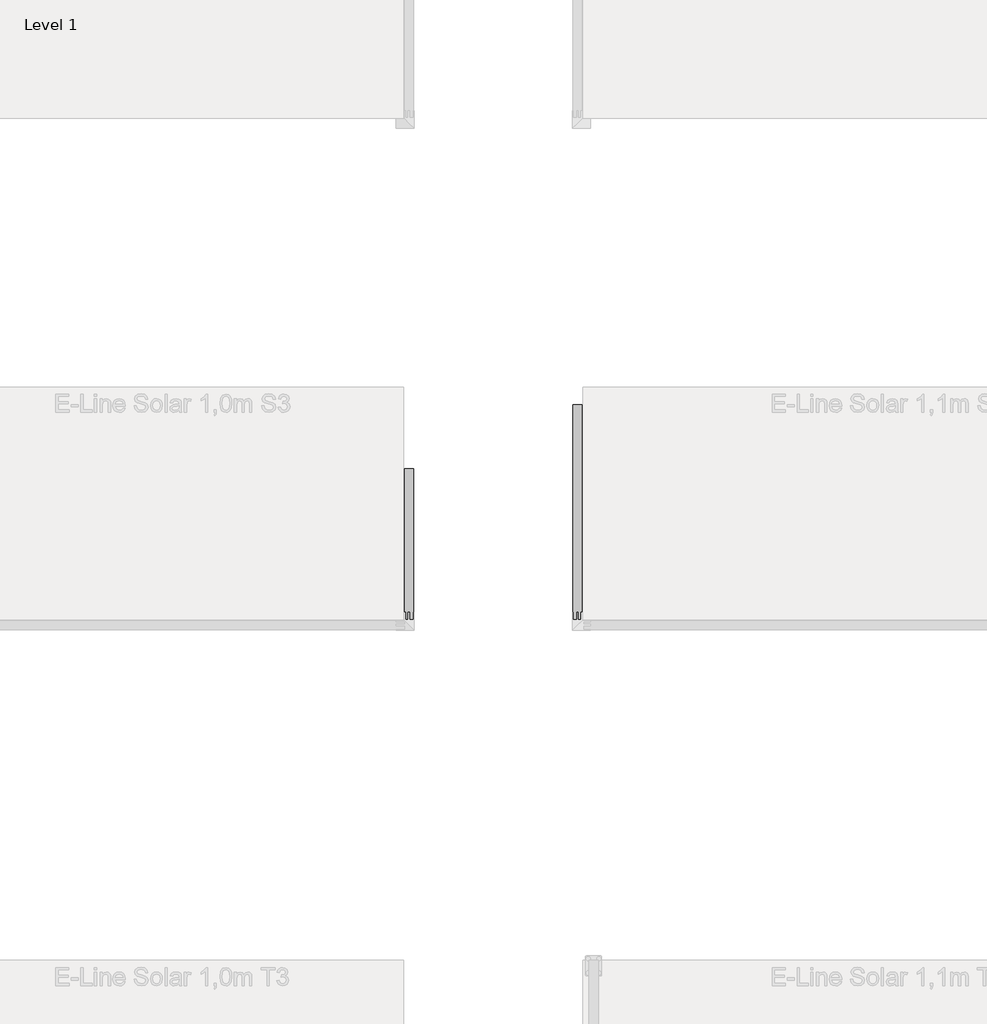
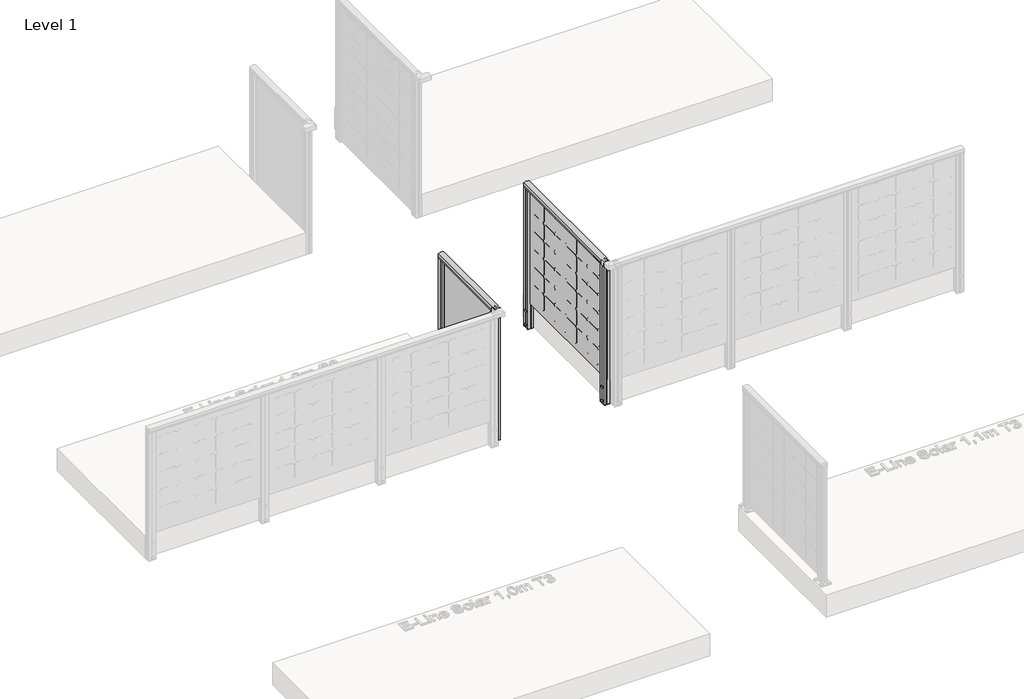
# One storey, part 37 of 66: 2 railings.
"""IFC4 building model written with IfcOpenShell, lengths in millimetres."""

from ifc_helpers import new_model, si_unit, point, frame, frame_2d, origin, place, context, project, spatial, polyline, circle_curve, trimmed, segment, composite_curve, outline, extrude, element, save

model = new_model("IFC4")

# Units and contexts
model_context = context("Model", 3, world=origin())
ifc_project = project(units=[si_unit("LENGTHUNIT", "METRE", prefix="MILLI")], contexts=[model_context])

# Site, building, storey
site = spatial("IfcSite", under=ifc_project)
building = spatial("IfcBuilding", under=site)
storey = spatial("IfcBuildingStorey", under=building, Name="Level 1", Elevation=0.0)

# Railings
placement = place(None, origin())
element("IfcRailing", 1, ObjectType="E-Line Solar 1,1m S3 6 columns of solar elements", at=placement, inside=storey, context=model_context, shape_type="SweptSolid", body=[
    extrude(outline(composite_curve([segment(trimmed(circle_curve(frame_2d((1042.6785502, 19265.8109342)), 57.3235687), [point((1094.1390059, 19291.0658945))], [point((1094.1342258, 19240.5462362))], False, "CARTESIAN"), True, "CONTINUOUS"), segment(polyline([(1094.1342258, 19240.5462362), (1067.0235023, 19240.5462362), (1066.4415706, 19241.128168), (1065.8194895, 19240.5060869), (1057.2498847, 19240.5060869), (1057.2498847, 19242.3110398), (1080.4998829, 19242.3110398), (1080.4998829, 19289.306086), (1057.2498847, 19289.306086), (1057.2498847, 19291.0658945), (1065.9694895, 19291.0658945), (1066.5842725, 19290.4511115), (1067.1990555, 19291.0658945), (1094.1390059, 19291.0658945)]), True, "CONTINUOUS")], self_intersect=False)), frame((0.0, 223.8815979, 0.0), z_axis=(0.0, 1.0, 0.0), x_axis=(0.0, 0.0, 1.0)), (0.0, 0.0, 1.0), 1195.0),
    extrude(outline(polyline([(19262.1463105, 1418.8815979), (19270.9063105, 1418.8815979), (19270.9063105, 223.8815979), (19262.1463105, 223.8815979), (19262.1463105, 1418.8815979)])), frame((0.0, 0.0, 28.0), z_axis=(0.0, 0.0, 1.0), x_axis=(1.0, 0.0, 0.0)), (0.0, 0.0, 1.0), 1052.0),
    extrude(outline(polyline([(0.0, 0.0), (-16.036927, 16.036927), (-16.036927, 139.963073), (0.0, 156.0), (123.9261459, 156.0), (139.963073, 139.963073), (139.963073, 16.036927), (123.9261459, 0.0), (0.0, 0.0)])), frame((19262.0263105, 1145.8815979, 1024.4156895), z_axis=(1.0, -5.811291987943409e-12, 0.0), x_axis=(0.0, 0.0, -1.0)), (0.0, 0.0, 1.0), 1.0),
    extrude(outline(polyline([(0.0, 0.0), (-16.036927, 16.036927), (-16.036927, 139.963073), (0.0, 156.0), (123.9261459, 156.0), (139.963073, 139.963073), (139.963073, 16.036927), (123.9261459, 0.0), (0.0, 0.0)])), frame((19262.0263105, 984.8815979, 1024.4156895), z_axis=(1.0, -5.811291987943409e-12, 0.0), x_axis=(0.0, 0.0, -1.0)), (0.0, 0.0, 1.0), 1.0),
    extrude(outline(polyline([(0.0, 0.0), (-16.036927, 16.036927), (-16.036927, 139.963073), (0.0, 156.0), (123.9261459, 156.0), (139.963073, 139.963073), (139.963073, 16.036927), (123.9261459, 0.0), (0.0, 0.0)])), frame((19262.0263105, 823.8815979, 1024.4156895), z_axis=(1.0, -5.811291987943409e-12, 0.0), x_axis=(0.0, 0.0, -1.0)), (0.0, 0.0, 1.0), 1.0),
    extrude(outline(polyline([(0.0, 0.0), (-16.036927, 16.036927), (-16.036927, 139.963073), (0.0, 156.0), (123.9261459, 156.0), (139.963073, 139.963073), (139.963073, 16.036927), (123.9261459, 0.0), (0.0, 0.0)])), frame((19262.0263105, 340.8815979, 1024.4156895), z_axis=(1.0, -5.811291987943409e-12, 0.0), x_axis=(0.0, 0.0, -1.0)), (0.0, 0.0, 1.0), 1.0),
    extrude(outline(polyline([(0.0, 0.0), (-16.036927, 16.036927), (-16.036927, 139.963073), (0.0, 156.0), (123.9261459, 156.0), (139.963073, 139.963073), (139.963073, 16.036927), (123.9261459, 0.0), (0.0, 0.0)])), frame((19262.0263105, 501.8815979, 1024.4156895), z_axis=(1.0, -5.811291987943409e-12, 0.0), x_axis=(0.0, 0.0, -1.0)), (0.0, 0.0, 1.0), 1.0),
    extrude(outline(polyline([(0.0, 0.0), (-16.036927, 16.036927), (-16.036927, 139.963073), (0.0, 156.0), (123.9261459, 156.0), (139.963073, 139.963073), (139.963073, 16.036927), (123.9261459, 0.0), (0.0, 0.0)])), frame((19262.0263105, 662.8815979, 1024.4156895), z_axis=(1.0, -5.811291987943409e-12, 0.0), x_axis=(0.0, 0.0, -1.0)), (0.0, 0.0, 1.0), 1.0),
    extrude(outline(polyline([(0.0, 0.0), (-16.036927, 16.036927), (-16.036927, 139.963073), (0.0, 156.0), (123.9261459, 156.0), (139.963073, 139.963073), (139.963073, 16.036927), (123.9261459, 0.0), (0.0, 0.0)])), frame((19262.0263105, 1145.8815979, 863.4156895), z_axis=(1.0, -5.811291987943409e-12, 0.0), x_axis=(0.0, 0.0, -1.0)), (0.0, 0.0, 1.0), 1.0),
    extrude(outline(polyline([(0.0, 0.0), (-16.036927, 16.036927), (-16.036927, 139.963073), (0.0, 156.0), (123.9261459, 156.0), (139.963073, 139.963073), (139.963073, 16.036927), (123.9261459, 0.0), (0.0, 0.0)])), frame((19262.0263105, 1145.8815979, 702.4156895), z_axis=(1.0, -5.811291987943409e-12, 0.0), x_axis=(0.0, 0.0, -1.0)), (0.0, 0.0, 1.0), 1.0),
    extrude(outline(polyline([(0.0, 0.0), (-16.036927, 16.036927), (-16.036927, 139.963073), (0.0, 156.0), (123.9261459, 156.0), (139.963073, 139.963073), (139.963073, 16.036927), (123.9261459, 0.0), (0.0, 0.0)])), frame((19262.0263105, 1145.8815979, 541.4156895), z_axis=(1.0, -5.811291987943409e-12, 0.0), x_axis=(0.0, 0.0, -1.0)), (0.0, 0.0, 1.0), 1.0),
    extrude(outline(polyline([(0.0, 0.0), (-16.036927, 16.036927), (-16.036927, 139.963073), (0.0, 156.0), (123.9261459, 156.0), (139.963073, 139.963073), (139.963073, 16.036927), (123.9261459, 0.0), (0.0, 0.0)])), frame((19262.0263105, 1145.8815979, 380.4156895), z_axis=(1.0, -5.811291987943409e-12, 0.0), x_axis=(0.0, 0.0, -1.0)), (0.0, 0.0, 1.0), 1.0),
    extrude(outline(polyline([(0.0, 0.0), (-16.036927, 16.036927), (-16.036927, 139.963073), (0.0, 156.0), (123.9261459, 156.0), (139.963073, 139.963073), (139.963073, 16.036927), (123.9261459, 0.0), (0.0, 0.0)])), frame((19262.0263105, 1145.8815979, 219.4156895), z_axis=(1.0, -5.811291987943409e-12, 0.0), x_axis=(0.0, 0.0, -1.0)), (0.0, 0.0, 1.0), 1.0),
    extrude(outline(polyline([(0.0, 0.0), (-16.036927, 16.036927), (-16.036927, 139.963073), (0.0, 156.0), (123.9261459, 156.0), (139.963073, 139.963073), (139.963073, 16.036927), (123.9261459, 0.0), (0.0, 0.0)])), frame((19262.0263105, 984.8815979, 863.4156895), z_axis=(1.0, -5.811291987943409e-12, 0.0), x_axis=(0.0, 0.0, -1.0)), (0.0, 0.0, 1.0), 1.0),
    extrude(outline(polyline([(0.0, 0.0), (-16.036927, 16.036927), (-16.036927, 139.963073), (0.0, 156.0), (123.9261459, 156.0), (139.963073, 139.963073), (139.963073, 16.036927), (123.9261459, 0.0), (0.0, 0.0)])), frame((19262.0263105, 984.8815979, 702.4156895), z_axis=(1.0, -5.811291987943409e-12, 0.0), x_axis=(0.0, 0.0, -1.0)), (0.0, 0.0, 1.0), 1.0),
    extrude(outline(polyline([(0.0, 0.0), (-16.036927, 16.036927), (-16.036927, 139.963073), (0.0, 156.0), (123.9261459, 156.0), (139.963073, 139.963073), (139.963073, 16.036927), (123.9261459, 0.0), (0.0, 0.0)])), frame((19262.0263105, 984.8815979, 541.4156895), z_axis=(1.0, -5.811291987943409e-12, 0.0), x_axis=(0.0, 0.0, -1.0)), (0.0, 0.0, 1.0), 1.0),
    extrude(outline(polyline([(0.0, 0.0), (-16.036927, 16.036927), (-16.036927, 139.963073), (0.0, 156.0), (123.9261459, 156.0), (139.963073, 139.963073), (139.963073, 16.036927), (123.9261459, 0.0), (0.0, 0.0)])), frame((19262.0263105, 984.8815979, 380.4156895), z_axis=(1.0, -5.811291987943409e-12, 0.0), x_axis=(0.0, 0.0, -1.0)), (0.0, 0.0, 1.0), 1.0),
    extrude(outline(polyline([(0.0, 0.0), (-16.036927, 16.036927), (-16.036927, 139.963073), (0.0, 156.0), (123.9261459, 156.0), (139.963073, 139.963073), (139.963073, 16.036927), (123.9261459, 0.0), (0.0, 0.0)])), frame((19262.0263105, 984.8815979, 219.4156895), z_axis=(1.0, -5.811291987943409e-12, 0.0), x_axis=(0.0, 0.0, -1.0)), (0.0, 0.0, 1.0), 1.0),
    extrude(outline(polyline([(0.0, 0.0), (-16.036927, 16.036927), (-16.036927, 139.963073), (0.0, 156.0), (123.9261459, 156.0), (139.963073, 139.963073), (139.963073, 16.036927), (123.9261459, 0.0), (0.0, 0.0)])), frame((19262.0263105, 823.8815979, 863.4156895), z_axis=(1.0, -5.811291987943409e-12, 0.0), x_axis=(0.0, 0.0, -1.0)), (0.0, 0.0, 1.0), 1.0),
    extrude(outline(polyline([(0.0, 0.0), (-16.036927, 16.036927), (-16.036927, 139.963073), (0.0, 156.0), (123.9261459, 156.0), (139.963073, 139.963073), (139.963073, 16.036927), (123.9261459, 0.0), (0.0, 0.0)])), frame((19262.0263105, 823.8815979, 702.4156895), z_axis=(1.0, -5.811291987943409e-12, 0.0), x_axis=(0.0, 0.0, -1.0)), (0.0, 0.0, 1.0), 1.0),
    extrude(outline(polyline([(0.0, 0.0), (-16.036927, 16.036927), (-16.036927, 139.963073), (0.0, 156.0), (123.9261459, 156.0), (139.963073, 139.963073), (139.963073, 16.036927), (123.9261459, 0.0), (0.0, 0.0)])), frame((19262.0263105, 823.8815979, 541.4156895), z_axis=(1.0, -5.811291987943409e-12, 0.0), x_axis=(0.0, 0.0, -1.0)), (0.0, 0.0, 1.0), 1.0),
    extrude(outline(polyline([(0.0, 0.0), (-16.036927, 16.036927), (-16.036927, 139.963073), (0.0, 156.0), (123.9261459, 156.0), (139.963073, 139.963073), (139.963073, 16.036927), (123.9261459, 0.0), (0.0, 0.0)])), frame((19262.0263105, 823.8815979, 380.4156895), z_axis=(1.0, -5.811291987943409e-12, 0.0), x_axis=(0.0, 0.0, -1.0)), (0.0, 0.0, 1.0), 1.0),
    extrude(outline(polyline([(0.0, 0.0), (-16.036927, 16.036927), (-16.036927, 139.963073), (0.0, 156.0), (123.9261459, 156.0), (139.963073, 139.963073), (139.963073, 16.036927), (123.9261459, 0.0), (0.0, 0.0)])), frame((19262.0263105, 823.8815979, 219.4156895), z_axis=(1.0, -5.811291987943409e-12, 0.0), x_axis=(0.0, 0.0, -1.0)), (0.0, 0.0, 1.0), 1.0),
    extrude(outline(polyline([(0.0, 0.0), (-16.036927, 16.036927), (-16.036927, 139.963073), (0.0, 156.0), (123.9261459, 156.0), (139.963073, 139.963073), (139.963073, 16.036927), (123.9261459, 0.0), (0.0, 0.0)])), frame((19262.0263105, 340.8815979, 863.4156895), z_axis=(1.0, -5.811291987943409e-12, 0.0), x_axis=(0.0, 0.0, -1.0)), (0.0, 0.0, 1.0), 1.0),
    extrude(outline(polyline([(0.0, 0.0), (-16.036927, 16.036927), (-16.036927, 139.963073), (0.0, 156.0), (123.9261459, 156.0), (139.963073, 139.963073), (139.963073, 16.036927), (123.9261459, 0.0), (0.0, 0.0)])), frame((19262.0263105, 340.8815979, 702.4156895), z_axis=(1.0, -5.811291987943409e-12, 0.0), x_axis=(0.0, 0.0, -1.0)), (0.0, 0.0, 1.0), 1.0),
    extrude(outline(polyline([(0.0, 0.0), (-16.036927, 16.036927), (-16.036927, 139.963073), (0.0, 156.0), (123.9261459, 156.0), (139.963073, 139.963073), (139.963073, 16.036927), (123.9261459, 0.0), (0.0, 0.0)])), frame((19262.0263105, 340.8815979, 541.4156895), z_axis=(1.0, -5.811291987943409e-12, 0.0), x_axis=(0.0, 0.0, -1.0)), (0.0, 0.0, 1.0), 1.0),
    extrude(outline(polyline([(0.0, 0.0), (-16.036927, 16.036927), (-16.036927, 139.963073), (0.0, 156.0), (123.9261459, 156.0), (139.963073, 139.963073), (139.963073, 16.036927), (123.9261459, 0.0), (0.0, 0.0)])), frame((19262.0263105, 340.8815979, 380.4156895), z_axis=(1.0, -5.811291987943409e-12, 0.0), x_axis=(0.0, 0.0, -1.0)), (0.0, 0.0, 1.0), 1.0),
    extrude(outline(polyline([(0.0, 0.0), (-16.036927, 16.036927), (-16.036927, 139.963073), (0.0, 156.0), (123.9261459, 156.0), (139.963073, 139.963073), (139.963073, 16.036927), (123.9261459, 0.0), (0.0, 0.0)])), frame((19262.0263105, 340.8815979, 219.4156895), z_axis=(1.0, -5.811291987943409e-12, 0.0), x_axis=(0.0, 0.0, -1.0)), (0.0, 0.0, 1.0), 1.0),
    extrude(outline(polyline([(0.0, 0.0), (-16.036927, 16.036927), (-16.036927, 139.963073), (0.0, 156.0), (123.9261459, 156.0), (139.963073, 139.963073), (139.963073, 16.036927), (123.9261459, 0.0), (0.0, 0.0)])), frame((19262.0263105, 501.8815979, 863.4156895), z_axis=(1.0, -5.811291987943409e-12, 0.0), x_axis=(0.0, 0.0, -1.0)), (0.0, 0.0, 1.0), 1.0),
    extrude(outline(polyline([(0.0, 0.0), (-16.036927, 16.036927), (-16.036927, 139.963073), (0.0, 156.0), (123.9261459, 156.0), (139.963073, 139.963073), (139.963073, 16.036927), (123.9261459, 0.0), (0.0, 0.0)])), frame((19262.0263105, 501.8815979, 702.4156895), z_axis=(1.0, -5.811291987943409e-12, 0.0), x_axis=(0.0, 0.0, -1.0)), (0.0, 0.0, 1.0), 1.0),
    extrude(outline(polyline([(0.0, 0.0), (-16.036927, 16.036927), (-16.036927, 139.963073), (0.0, 156.0), (123.9261459, 156.0), (139.963073, 139.963073), (139.963073, 16.036927), (123.9261459, 0.0), (0.0, 0.0)])), frame((19262.0263105, 501.8815979, 541.4156895), z_axis=(1.0, -5.811291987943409e-12, 0.0), x_axis=(0.0, 0.0, -1.0)), (0.0, 0.0, 1.0), 1.0),
    extrude(outline(polyline([(0.0, 0.0), (-16.036927, 16.036927), (-16.036927, 139.963073), (0.0, 156.0), (123.9261459, 156.0), (139.963073, 139.963073), (139.963073, 16.036927), (123.9261459, 0.0), (0.0, 0.0)])), frame((19262.0263105, 501.8815979, 380.4156895), z_axis=(1.0, -5.811291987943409e-12, 0.0), x_axis=(0.0, 0.0, -1.0)), (0.0, 0.0, 1.0), 1.0),
    extrude(outline(polyline([(0.0, 0.0), (-16.036927, 16.036927), (-16.036927, 139.963073), (0.0, 156.0), (123.9261459, 156.0), (139.963073, 139.963073), (139.963073, 16.036927), (123.9261459, 0.0), (0.0, 0.0)])), frame((19262.0263105, 501.8815979, 219.4156895), z_axis=(1.0, -5.811291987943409e-12, 0.0), x_axis=(0.0, 0.0, -1.0)), (0.0, 0.0, 1.0), 1.0),
    extrude(outline(polyline([(0.0, 0.0), (-16.036927, 16.036927), (-16.036927, 139.963073), (0.0, 156.0), (123.9261459, 156.0), (139.963073, 139.963073), (139.963073, 16.036927), (123.9261459, 0.0), (0.0, 0.0)])), frame((19262.0263105, 662.8815979, 863.4156895), z_axis=(1.0, -5.811291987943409e-12, 0.0), x_axis=(0.0, 0.0, -1.0)), (0.0, 0.0, 1.0), 1.0),
    extrude(outline(polyline([(0.0, 0.0), (-16.036927, 16.036927), (-16.036927, 139.963073), (0.0, 156.0), (123.9261459, 156.0), (139.963073, 139.963073), (139.963073, 16.036927), (123.9261459, 0.0), (0.0, 0.0)])), frame((19262.0263105, 662.8815979, 702.4156895), z_axis=(1.0, -5.811291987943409e-12, 0.0), x_axis=(0.0, 0.0, -1.0)), (0.0, 0.0, 1.0), 1.0),
    extrude(outline(polyline([(0.0, 0.0), (-16.036927, 16.036927), (-16.036927, 139.963073), (0.0, 156.0), (123.9261459, 156.0), (139.963073, 139.963073), (139.963073, 16.036927), (123.9261459, 0.0), (0.0, 0.0)])), frame((19262.0263105, 662.8815979, 541.4156895), z_axis=(1.0, -5.811291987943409e-12, 0.0), x_axis=(0.0, 0.0, -1.0)), (0.0, 0.0, 1.0), 1.0),
    extrude(outline(polyline([(0.0, 0.0), (-16.036927, 16.036927), (-16.036927, 139.963073), (0.0, 156.0), (123.9261459, 156.0), (139.963073, 139.963073), (139.963073, 16.036927), (123.9261459, 0.0), (0.0, 0.0)])), frame((19262.0263105, 662.8815979, 380.4156895), z_axis=(1.0, -5.811291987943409e-12, 0.0), x_axis=(0.0, 0.0, -1.0)), (0.0, 0.0, 1.0), 1.0),
    extrude(outline(polyline([(0.0, 0.0), (-16.036927, 16.036927), (-16.036927, 139.963073), (0.0, 156.0), (123.9261459, 156.0), (139.963073, 139.963073), (139.963073, 16.036927), (123.9261459, 0.0), (0.0, 0.0)])), frame((19262.0263105, 662.8815979, 219.4156895), z_axis=(1.0, -5.811291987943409e-12, 0.0), x_axis=(0.0, 0.0, -1.0)), (0.0, 0.0, 1.0), 1.0),
    extrude(outline(polyline([(19270.8721725, 223.883191), (19270.8747497, 241.3831908), (19262.1147498, 241.3844809), (19262.1121726, 223.8844811), (19244.0573652, 223.88714), (19244.0616532, 253.004127), (19244.9400753, 253.8822904), (19244.021743, 254.9201583), (19244.0260089, 283.8871452), (19262.1210087, 283.8844804), (19262.1184315, 266.3844806), (19270.8784314, 266.3831905), (19270.8810086, 283.8831903), (19288.9859597, 283.880524), (19288.9816865, 254.8640485), (19287.9932969, 253.87595), (19289.0214382, 252.8475058), (19289.0171723, 223.8805188), (19270.8721725, 223.883191)]), holes=[polyline([(19246.0202949, 262.6808129), (19246.0202949, 245.0868512), (19287.0228863, 245.0868512), (19287.0228863, 262.6808129), (19246.0202949, 262.6808129)]), polyline([(19272.878181, 281.8808127), (19272.878181, 264.682896), (19287.0257139, 264.682896), (19287.0257139, 281.8808127), (19272.878181, 281.8808127)]), polyline([(19246.0202949, 281.884775), (19246.0202949, 264.6868513), (19260.1207142, 264.6868513), (19260.1207142, 281.884775), (19246.0202949, 281.884775)]), polyline([(19272.872467, 243.0808132), (19272.872467, 225.8828965), (19287.0199999, 225.8828965), (19287.0199999, 243.0808132), (19272.872467, 243.0808132)]), polyline([(19245.9674673, 243.0847754), (19245.9674673, 225.8868587), (19260.1150002, 225.8868587), (19260.1150002, 243.0847754), (19245.9674673, 243.0847754)])]), frame((0.0, 0.0, -200.0), z_axis=(0.0, 0.0, 1.0), x_axis=(1.0, 0.0, 0.0)), (0.0, 0.0, 1.0), 1281.0),
    extrude(outline(polyline([(19270.8721725, 223.883191), (19270.8747497, 241.3831908), (19262.1147498, 241.3844809), (19262.1121726, 223.8844811), (19244.0573652, 223.88714), (19244.0616532, 253.004127), (19244.9400753, 253.8822904), (19244.021743, 254.9201583), (19244.0260089, 283.8871452), (19262.1210087, 283.8844804), (19262.1184315, 266.3844806), (19270.8784314, 266.3831905), (19270.8810086, 283.8831903), (19288.9859597, 283.880524), (19288.9816865, 254.8640485), (19287.9932969, 253.87595), (19289.0214382, 252.8475058), (19289.0171723, 223.8805188), (19270.8721725, 223.883191)])), frame((0.0, 0.0, -202.0233958), z_axis=(0.0, 0.0, 1.0), x_axis=(1.0, 0.0, 0.0)), (0.0, 0.0, 1.0), 2.0),
    extrude(outline(composite_curve([segment(trimmed(circle_curve(frame_2d((0.0, 12.0)), 12.0), [point((0.0, 23.9999999))], [point((0.0, 0.0))], False, "CARTESIAN"), True, "CONTINUOUS"), segment(trimmed(circle_curve(frame_2d((0.0, 12.0)), 12.0), [point((0.0, 0.0))], [point((0.0, 23.9999999))], False, "CARTESIAN"), True, "CONTINUOUS")], self_intersect=False)), frame((19244.0668454, 265.8906355, -175.0), z_axis=(-0.9999999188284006, 0.0004029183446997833, 0.0), x_axis=(0.0, 0.0, -1.0)), (0.0, 0.0, 1.0), 3.0757477),
    extrude(outline(composite_curve([segment(trimmed(circle_curve(frame_2d((0.0, 12.0)), 12.0), [point((0.0, 23.9999999))], [point((0.0, 0.0))], False, "CARTESIAN"), True, "CONTINUOUS"), segment(trimmed(circle_curve(frame_2d((0.0, 12.0)), 12.0), [point((0.0, 0.0))], [point((0.0, 23.9999999))], False, "CARTESIAN"), True, "CONTINUOUS")], self_intersect=False)), frame((19244.0668454, 265.8906355, -50.0), z_axis=(-0.9999999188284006, 0.0004029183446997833, 0.0), x_axis=(0.0, 0.0, -1.0)), (0.0, 0.0, 1.0), 3.0757477),
    extrude(outline(polyline([(19270.8721725, 1358.883191), (19270.8747497, 1376.3831908), (19262.1147498, 1376.3844809), (19262.1121726, 1358.8844811), (19244.0573652, 1358.88714), (19244.0616532, 1388.004127), (19244.9400753, 1388.8822904), (19244.021743, 1389.9201583), (19244.0260089, 1418.8871452), (19262.1210087, 1418.8844804), (19262.1184315, 1401.3844806), (19270.8784314, 1401.3831905), (19270.8810086, 1418.8831903), (19288.9859597, 1418.880524), (19288.9816865, 1389.8640485), (19287.9932969, 1388.87595), (19289.0214382, 1387.8475058), (19289.0171723, 1358.8805188), (19270.8721725, 1358.883191)]), holes=[polyline([(19246.0202949, 1397.6808129), (19246.0202949, 1380.0868512), (19287.0228863, 1380.0868512), (19287.0228863, 1397.6808129), (19246.0202949, 1397.6808129)]), polyline([(19272.878181, 1416.8808127), (19272.878181, 1399.682896), (19287.0257139, 1399.682896), (19287.0257139, 1416.8808127), (19272.878181, 1416.8808127)]), polyline([(19246.0202949, 1416.884775), (19246.0202949, 1399.6868513), (19260.1207142, 1399.6868513), (19260.1207142, 1416.884775), (19246.0202949, 1416.884775)]), polyline([(19272.872467, 1378.0808132), (19272.872467, 1360.8828965), (19287.0199999, 1360.8828965), (19287.0199999, 1378.0808132), (19272.872467, 1378.0808132)]), polyline([(19245.9674673, 1378.0847754), (19245.9674673, 1360.8868587), (19260.1150002, 1360.8868587), (19260.1150002, 1378.0847754), (19245.9674673, 1378.0847754)])]), frame((0.0, 0.0, -200.0), z_axis=(0.0, 0.0, 1.0), x_axis=(1.0, 0.0, 0.0)), (0.0, 0.0, 1.0), 1281.0),
    extrude(outline(polyline([(19270.8721725, 1358.883191), (19270.8747497, 1376.3831908), (19262.1147498, 1376.3844809), (19262.1121726, 1358.8844811), (19244.0573652, 1358.88714), (19244.0616532, 1388.004127), (19244.9400753, 1388.8822904), (19244.021743, 1389.9201583), (19244.0260089, 1418.8871452), (19262.1210087, 1418.8844804), (19262.1184315, 1401.3844806), (19270.8784314, 1401.3831905), (19270.8810086, 1418.8831903), (19288.9859597, 1418.880524), (19288.9816865, 1389.8640485), (19287.9932969, 1388.87595), (19289.0214382, 1387.8475058), (19289.0171723, 1358.8805188), (19270.8721725, 1358.883191)])), frame((0.0, 0.0, -202.0233958), z_axis=(0.0, 0.0, 1.0), x_axis=(1.0, 0.0, 0.0)), (0.0, 0.0, 1.0), 2.0),
    extrude(outline(composite_curve([segment(trimmed(circle_curve(frame_2d((0.0, 12.0)), 12.0), [point((0.0, 23.9999999))], [point((0.0, 0.0))], False, "CARTESIAN"), True, "CONTINUOUS"), segment(trimmed(circle_curve(frame_2d((0.0, 12.0)), 12.0), [point((0.0, 0.0))], [point((0.0, 23.9999999))], False, "CARTESIAN"), True, "CONTINUOUS")], self_intersect=False)), frame((19244.0668454, 1400.8906355, -175.0), z_axis=(-0.9999999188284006, 0.0004029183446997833, 0.0), x_axis=(0.0, 0.0, -1.0)), (0.0, 0.0, 1.0), 3.0757477),
    extrude(outline(composite_curve([segment(trimmed(circle_curve(frame_2d((0.0, 12.0)), 12.0), [point((0.0, 23.9999999))], [point((0.0, 0.0))], False, "CARTESIAN"), True, "CONTINUOUS"), segment(trimmed(circle_curve(frame_2d((0.0, 12.0)), 12.0), [point((0.0, 0.0))], [point((0.0, 23.9999999))], False, "CARTESIAN"), True, "CONTINUOUS")], self_intersect=False)), frame((19244.0668454, 1400.8906355, -50.0), z_axis=(-0.9999999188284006, 0.0004029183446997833, 0.0), x_axis=(0.0, 0.0, -1.0)), (0.0, 0.0, 1.0), 3.0757477),
])
element("IfcRailing", 2, ObjectType="E-Line Solar 1,0m S3 4 columns of solar elements", at=placement, inside=storey, context=model_context, shape_type="SweptSolid", body=[
    extrude(outline(composite_curve([segment(trimmed(circle_curve(frame_2d((942.6785502, 18327.2511266)), 57.3235687), [point((994.1390059, 18352.5060869))], [point((994.1342258, 18301.9864286))], False, "CARTESIAN"), True, "CONTINUOUS"), segment(polyline([(994.1342258, 18301.9864286), (967.0235023, 18301.9864286), (966.4415706, 18302.5683604), (965.8194895, 18301.9462793), (957.2498847, 18301.9462793), (957.2498847, 18303.7512322), (980.4998829, 18303.7512322), (980.4998829, 18350.7462783), (957.2498847, 18350.7462783), (957.2498847, 18352.5060869), (965.9694895, 18352.5060869), (966.5842725, 18351.8913039), (967.1990555, 18352.5060869), (994.1390059, 18352.5060869)]), True, "CONTINUOUS")], self_intersect=False)), frame((0.0, 223.8815979, 0.0), z_axis=(0.0, 1.0, 0.0), x_axis=(0.0, 0.0, 1.0)), (0.0, 0.0, 1.0), 840.0),
    extrude(outline(polyline([(18322.1463105, 1063.8815979), (18330.9063105, 1063.8815979), (18330.9063105, 223.8815979), (18322.1463105, 223.8815979), (18322.1463105, 1063.8815979)])), frame((0.0, 0.0, 28.0), z_axis=(0.0, 0.0, 1.0), x_axis=(1.0, 0.0, 0.0)), (0.0, 0.0, 1.0), 952.0),
    extrude(outline(polyline([(0.0, 0.0), (16.036927, -16.036927), (16.036927, -139.963073), (0.0, -156.0), (-123.9261459, -156.0), (-139.963073, -139.963073), (-139.963073, -16.036927), (-123.9261459, 0.0), (0.0, 0.0)])), frame((18330.0263105, 807.3815979, 873.4156895), z_axis=(1.0, 5.811291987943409e-12, 0.0), x_axis=(0.0, 0.0, 1.0)), (0.0, 0.0, 1.0), 1.0),
    extrude(outline(polyline([(0.0, 0.0), (16.036927, -16.036927), (16.036927, -139.963073), (0.0, -156.0), (-123.9261459, -156.0), (-139.963073, -139.963073), (-139.963073, -16.036927), (-123.9261459, 0.0), (0.0, 0.0)])), frame((18330.0263105, 807.3815979, 712.4156895), z_axis=(1.0, 5.811291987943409e-12, 0.0), x_axis=(0.0, 0.0, 1.0)), (0.0, 0.0, 1.0), 1.0),
    extrude(outline(polyline([(0.0, 0.0), (16.036927, -16.036927), (16.036927, -139.963073), (0.0, -156.0), (-123.9261459, -156.0), (-139.963073, -139.963073), (-139.963073, -16.036927), (-123.9261459, 0.0), (0.0, 0.0)])), frame((18330.0263105, 807.3815979, 551.4156895), z_axis=(1.0, 5.811291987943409e-12, 0.0), x_axis=(0.0, 0.0, 1.0)), (0.0, 0.0, 1.0), 1.0),
    extrude(outline(polyline([(0.0, 0.0), (16.036927, -16.036927), (16.036927, -139.963073), (0.0, -156.0), (-123.9261459, -156.0), (-139.963073, -139.963073), (-139.963073, -16.036927), (-123.9261459, 0.0), (0.0, 0.0)])), frame((18330.0263105, 807.3815979, 390.4156895), z_axis=(1.0, 5.811291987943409e-12, 0.0), x_axis=(0.0, 0.0, 1.0)), (0.0, 0.0, 1.0), 1.0),
    extrude(outline(polyline([(0.0, 0.0), (16.036927, -16.036927), (16.036927, -139.963073), (0.0, -156.0), (-123.9261459, -156.0), (-139.963073, -139.963073), (-139.963073, -16.036927), (-123.9261459, 0.0), (0.0, 0.0)])), frame((18330.0263105, 807.3815979, 229.4156895), z_axis=(1.0, 5.811291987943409e-12, 0.0), x_axis=(0.0, 0.0, 1.0)), (0.0, 0.0, 1.0), 1.0),
    extrude(outline(polyline([(0.0, 0.0), (16.036927, -16.036927), (16.036927, -139.963073), (0.0, -156.0), (-123.9261459, -156.0), (-139.963073, -139.963073), (-139.963073, -16.036927), (-123.9261459, 0.0), (0.0, 0.0)])), frame((18330.0263105, 646.3815979, 873.4156895), z_axis=(1.0, 5.811291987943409e-12, 0.0), x_axis=(0.0, 0.0, 1.0)), (0.0, 0.0, 1.0), 1.0),
    extrude(outline(polyline([(0.0, 0.0), (16.036927, -16.036927), (16.036927, -139.963073), (0.0, -156.0), (-123.9261459, -156.0), (-139.963073, -139.963073), (-139.963073, -16.036927), (-123.9261459, 0.0), (0.0, 0.0)])), frame((18330.0263105, 646.3815979, 712.4156895), z_axis=(1.0, 5.811291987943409e-12, 0.0), x_axis=(0.0, 0.0, 1.0)), (0.0, 0.0, 1.0), 1.0),
    extrude(outline(polyline([(0.0, 0.0), (16.036927, -16.036927), (16.036927, -139.963073), (0.0, -156.0), (-123.9261459, -156.0), (-139.963073, -139.963073), (-139.963073, -16.036927), (-123.9261459, 0.0), (0.0, 0.0)])), frame((18330.0263105, 646.3815979, 551.4156895), z_axis=(1.0, 5.811291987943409e-12, 0.0), x_axis=(0.0, 0.0, 1.0)), (0.0, 0.0, 1.0), 1.0),
    extrude(outline(polyline([(0.0, 0.0), (16.036927, -16.036927), (16.036927, -139.963073), (0.0, -156.0), (-123.9261459, -156.0), (-139.963073, -139.963073), (-139.963073, -16.036927), (-123.9261459, 0.0), (0.0, 0.0)])), frame((18330.0263105, 646.3815979, 390.4156895), z_axis=(1.0, 5.811291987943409e-12, 0.0), x_axis=(0.0, 0.0, 1.0)), (0.0, 0.0, 1.0), 1.0),
    extrude(outline(polyline([(0.0, 0.0), (16.036927, -16.036927), (16.036927, -139.963073), (0.0, -156.0), (-123.9261459, -156.0), (-139.963073, -139.963073), (-139.963073, -16.036927), (-123.9261459, 0.0), (0.0, 0.0)])), frame((18330.0263105, 646.3815979, 229.4156895), z_axis=(1.0, 5.811291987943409e-12, 0.0), x_axis=(0.0, 0.0, 1.0)), (0.0, 0.0, 1.0), 1.0),
    extrude(outline(polyline([(0.0, 0.0), (16.036927, -16.036927), (16.036927, -139.963073), (0.0, -156.0), (-123.9261459, -156.0), (-139.963073, -139.963073), (-139.963073, -16.036927), (-123.9261459, 0.0), (0.0, 0.0)])), frame((18330.0263105, 324.3815979, 873.4156895), z_axis=(1.0, 5.811291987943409e-12, 0.0), x_axis=(0.0, 0.0, 1.0)), (0.0, 0.0, 1.0), 1.0),
    extrude(outline(polyline([(0.0, 0.0), (16.036927, -16.036927), (16.036927, -139.963073), (0.0, -156.0), (-123.9261459, -156.0), (-139.963073, -139.963073), (-139.963073, -16.036927), (-123.9261459, 0.0), (0.0, 0.0)])), frame((18330.0263105, 324.3815979, 712.4156895), z_axis=(1.0, 5.811291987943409e-12, 0.0), x_axis=(0.0, 0.0, 1.0)), (0.0, 0.0, 1.0), 1.0),
    extrude(outline(polyline([(0.0, 0.0), (16.036927, -16.036927), (16.036927, -139.963073), (0.0, -156.0), (-123.9261459, -156.0), (-139.963073, -139.963073), (-139.963073, -16.036927), (-123.9261459, 0.0), (0.0, 0.0)])), frame((18330.0263105, 324.3815979, 551.4156895), z_axis=(1.0, 5.811291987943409e-12, 0.0), x_axis=(0.0, 0.0, 1.0)), (0.0, 0.0, 1.0), 1.0),
    extrude(outline(polyline([(0.0, 0.0), (16.036927, -16.036927), (16.036927, -139.963073), (0.0, -156.0), (-123.9261459, -156.0), (-139.963073, -139.963073), (-139.963073, -16.036927), (-123.9261459, 0.0), (0.0, 0.0)])), frame((18330.0263105, 324.3815979, 390.4156895), z_axis=(1.0, 5.811291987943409e-12, 0.0), x_axis=(0.0, 0.0, 1.0)), (0.0, 0.0, 1.0), 1.0),
    extrude(outline(polyline([(0.0, 0.0), (16.036927, -16.036927), (16.036927, -139.963073), (0.0, -156.0), (-123.9261459, -156.0), (-139.963073, -139.963073), (-139.963073, -16.036927), (-123.9261459, 0.0), (0.0, 0.0)])), frame((18330.0263105, 324.3815979, 229.4156895), z_axis=(1.0, 5.811291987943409e-12, 0.0), x_axis=(0.0, 0.0, 1.0)), (0.0, 0.0, 1.0), 1.0),
    extrude(outline(polyline([(0.0, 0.0), (16.036927, -16.036927), (16.036927, -139.963073), (0.0, -156.0), (-123.9261459, -156.0), (-139.963073, -139.963073), (-139.963073, -16.036927), (-123.9261459, 0.0), (0.0, 0.0)])), frame((18330.0263105, 485.3815979, 873.4156895), z_axis=(1.0, 5.811291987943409e-12, 0.0), x_axis=(0.0, 0.0, 1.0)), (0.0, 0.0, 1.0), 1.0),
    extrude(outline(polyline([(0.0, 0.0), (16.036927, -16.036927), (16.036927, -139.963073), (0.0, -156.0), (-123.9261459, -156.0), (-139.963073, -139.963073), (-139.963073, -16.036927), (-123.9261459, 0.0), (0.0, 0.0)])), frame((18330.0263105, 485.3815979, 712.4156895), z_axis=(1.0, 5.811291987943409e-12, 0.0), x_axis=(0.0, 0.0, 1.0)), (0.0, 0.0, 1.0), 1.0),
    extrude(outline(polyline([(0.0, 0.0), (16.036927, -16.036927), (16.036927, -139.963073), (0.0, -156.0), (-123.9261459, -156.0), (-139.963073, -139.963073), (-139.963073, -16.036927), (-123.9261459, 0.0), (0.0, 0.0)])), frame((18330.0263105, 485.3815979, 551.4156895), z_axis=(1.0, 5.811291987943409e-12, 0.0), x_axis=(0.0, 0.0, 1.0)), (0.0, 0.0, 1.0), 1.0),
    extrude(outline(polyline([(0.0, 0.0), (16.036927, -16.036927), (16.036927, -139.963073), (0.0, -156.0), (-123.9261459, -156.0), (-139.963073, -139.963073), (-139.963073, -16.036927), (-123.9261459, 0.0), (0.0, 0.0)])), frame((18330.0263105, 485.3815979, 390.4156895), z_axis=(1.0, 5.811291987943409e-12, 0.0), x_axis=(0.0, 0.0, 1.0)), (0.0, 0.0, 1.0), 1.0),
    extrude(outline(polyline([(0.0, 0.0), (16.036927, -16.036927), (16.036927, -139.963073), (0.0, -156.0), (-123.9261459, -156.0), (-139.963073, -139.963073), (-139.963073, -16.036927), (-123.9261459, 0.0), (0.0, 0.0)])), frame((18330.0263105, 485.3815979, 229.4156895), z_axis=(1.0, 5.811291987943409e-12, 0.0), x_axis=(0.0, 0.0, 1.0)), (0.0, 0.0, 1.0), 1.0),
    extrude(outline(polyline([(18322.1804485, 223.883191), (18304.0354487, 223.8805188), (18304.0311828, 252.8475058), (18305.0593241, 253.87595), (18304.0709345, 254.8640485), (18304.0666613, 283.880524), (18322.1716124, 283.8831903), (18322.1741896, 266.3831905), (18330.9341895, 266.3844806), (18330.9316123, 283.8844804), (18349.0266121, 283.8871452), (18349.030878, 254.9201583), (18348.1125457, 253.8822904), (18348.9909678, 253.004127), (18348.9952559, 223.88714), (18330.9404484, 223.8844811), (18330.9378712, 241.3844809), (18322.1778713, 241.3831908), (18322.1804485, 223.883191)])), frame((0.0, 0.0, -202.0233958), z_axis=(0.0, 0.0, 1.0), x_axis=(1.0, 0.0, 0.0)), (0.0, 0.0, 1.0), 2.0),
    extrude(outline(composite_curve([segment(trimmed(circle_curve(frame_2d((0.0, -12.0)), 12.0), [point((0.0, -23.9999999))], [point((0.0, 0.0))], False, "CARTESIAN"), True, "CONTINUOUS"), segment(trimmed(circle_curve(frame_2d((0.0, -12.0)), 12.0), [point((0.0, 0.0))], [point((0.0, -23.9999999))], False, "CARTESIAN"), True, "CONTINUOUS")], self_intersect=False)), frame((18348.9857756, 265.8906355, -175.0), z_axis=(0.9999999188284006, 0.0004029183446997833, 0.0), x_axis=(0.0, 0.0, -1.0)), (0.0, 0.0, 1.0), 3.0757477),
    extrude(outline(composite_curve([segment(trimmed(circle_curve(frame_2d((0.0, -12.0)), 12.0), [point((0.0, -23.9999999))], [point((0.0, 0.0))], False, "CARTESIAN"), True, "CONTINUOUS"), segment(trimmed(circle_curve(frame_2d((0.0, -12.0)), 12.0), [point((0.0, 0.0))], [point((0.0, -23.9999999))], False, "CARTESIAN"), True, "CONTINUOUS")], self_intersect=False)), frame((18348.9857756, 265.8906355, -50.0), z_axis=(0.9999999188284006, 0.0004029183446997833, 0.0), x_axis=(0.0, 0.0, -1.0)), (0.0, 0.0, 1.0), 3.0757477),
    extrude(outline(polyline([(18322.1804485, 223.883191), (18304.0354487, 223.8805188), (18304.0311828, 252.8475058), (18305.0593241, 253.87595), (18304.0709345, 254.8640485), (18304.0666613, 283.880524), (18322.1716124, 283.8831903), (18322.1741896, 266.3831905), (18330.9341895, 266.3844806), (18330.9316123, 283.8844804), (18349.0266121, 283.8871452), (18349.030878, 254.9201583), (18348.1125457, 253.8822904), (18348.9909678, 253.004127), (18348.9952559, 223.88714), (18330.9404484, 223.8844811), (18330.9378712, 241.3844809), (18322.1778713, 241.3831908), (18322.1804485, 223.883191)]), holes=[polyline([(18347.0323262, 262.6808129), (18306.0297347, 262.6808129), (18306.0297347, 245.0868512), (18347.0323262, 245.0868512), (18347.0323262, 262.6808129)]), polyline([(18320.17444, 281.8808127), (18306.0269071, 281.8808127), (18306.0269071, 264.682896), (18320.17444, 264.682896), (18320.17444, 281.8808127)]), polyline([(18347.0323262, 281.884775), (18332.9319068, 281.884775), (18332.9319068, 264.6868513), (18347.0323262, 264.6868513), (18347.0323262, 281.884775)]), polyline([(18320.180154, 243.0808132), (18306.0326211, 243.0808132), (18306.0326211, 225.8828965), (18320.180154, 225.8828965), (18320.180154, 243.0808132)]), polyline([(18347.0851537, 243.0847754), (18332.9376209, 243.0847754), (18332.9376209, 225.8868587), (18347.0851537, 225.8868587), (18347.0851537, 243.0847754)])]), frame((0.0, 0.0, -200.0), z_axis=(0.0, 0.0, 1.0), x_axis=(1.0, 0.0, 0.0)), (0.0, 0.0, 1.0), 1181.0),
    extrude(outline(polyline([(18322.1804485, 1003.883191), (18304.0354487, 1003.8805188), (18304.0311828, 1032.8475058), (18305.0593241, 1033.87595), (18304.0709345, 1034.8640485), (18304.0666613, 1063.880524), (18322.1716124, 1063.8831903), (18322.1741896, 1046.3831905), (18330.9341895, 1046.3844806), (18330.9316123, 1063.8844804), (18349.0266121, 1063.8871452), (18349.030878, 1034.9201583), (18348.1125457, 1033.8822904), (18348.9909678, 1033.004127), (18348.9952559, 1003.88714), (18330.9404484, 1003.8844811), (18330.9378712, 1021.3844809), (18322.1778713, 1021.3831908), (18322.1804485, 1003.883191)])), frame((0.0, 0.0, -202.0233958), z_axis=(0.0, 0.0, 1.0), x_axis=(1.0, 0.0, 0.0)), (0.0, 0.0, 1.0), 2.0),
    extrude(outline(composite_curve([segment(trimmed(circle_curve(frame_2d((0.0, -12.0)), 12.0), [point((0.0, -23.9999999))], [point((0.0, 0.0))], False, "CARTESIAN"), True, "CONTINUOUS"), segment(trimmed(circle_curve(frame_2d((0.0, -12.0)), 12.0), [point((0.0, 0.0))], [point((0.0, -23.9999999))], False, "CARTESIAN"), True, "CONTINUOUS")], self_intersect=False)), frame((18348.9857756, 1045.8906355, -175.0), z_axis=(0.9999999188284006, 0.0004029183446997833, 0.0), x_axis=(0.0, 0.0, -1.0)), (0.0, 0.0, 1.0), 3.0757477),
    extrude(outline(composite_curve([segment(trimmed(circle_curve(frame_2d((0.0, -12.0)), 12.0), [point((0.0, -23.9999999))], [point((0.0, 0.0))], False, "CARTESIAN"), True, "CONTINUOUS"), segment(trimmed(circle_curve(frame_2d((0.0, -12.0)), 12.0), [point((0.0, 0.0))], [point((0.0, -23.9999999))], False, "CARTESIAN"), True, "CONTINUOUS")], self_intersect=False)), frame((18348.9857756, 1045.8906355, -50.0), z_axis=(0.9999999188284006, 0.0004029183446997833, 0.0), x_axis=(0.0, 0.0, -1.0)), (0.0, 0.0, 1.0), 3.0757477),
    extrude(outline(polyline([(18322.1804485, 1003.883191), (18304.0354487, 1003.8805188), (18304.0311828, 1032.8475058), (18305.0593241, 1033.87595), (18304.0709345, 1034.8640485), (18304.0666613, 1063.880524), (18322.1716124, 1063.8831903), (18322.1741896, 1046.3831905), (18330.9341895, 1046.3844806), (18330.9316123, 1063.8844804), (18349.0266121, 1063.8871452), (18349.030878, 1034.9201583), (18348.1125457, 1033.8822904), (18348.9909678, 1033.004127), (18348.9952559, 1003.88714), (18330.9404484, 1003.8844811), (18330.9378712, 1021.3844809), (18322.1778713, 1021.3831908), (18322.1804485, 1003.883191)]), holes=[polyline([(18347.0323262, 1042.6808129), (18306.0297347, 1042.6808129), (18306.0297347, 1025.0868512), (18347.0323262, 1025.0868512), (18347.0323262, 1042.6808129)]), polyline([(18320.17444, 1061.8808127), (18306.0269071, 1061.8808127), (18306.0269071, 1044.682896), (18320.17444, 1044.682896), (18320.17444, 1061.8808127)]), polyline([(18347.0323262, 1061.884775), (18332.9319068, 1061.884775), (18332.9319068, 1044.6868513), (18347.0323262, 1044.6868513), (18347.0323262, 1061.884775)]), polyline([(18320.180154, 1023.0808132), (18306.0326211, 1023.0808132), (18306.0326211, 1005.8828965), (18320.180154, 1005.8828965), (18320.180154, 1023.0808132)]), polyline([(18347.0851537, 1023.0847754), (18332.9376209, 1023.0847754), (18332.9376209, 1005.8868587), (18347.0851537, 1005.8868587), (18347.0851537, 1023.0847754)])]), frame((0.0, 0.0, -200.0), z_axis=(0.0, 0.0, 1.0), x_axis=(1.0, 0.0, 0.0)), (0.0, 0.0, 1.0), 1181.0),
])

save(model, "model.ifc")
